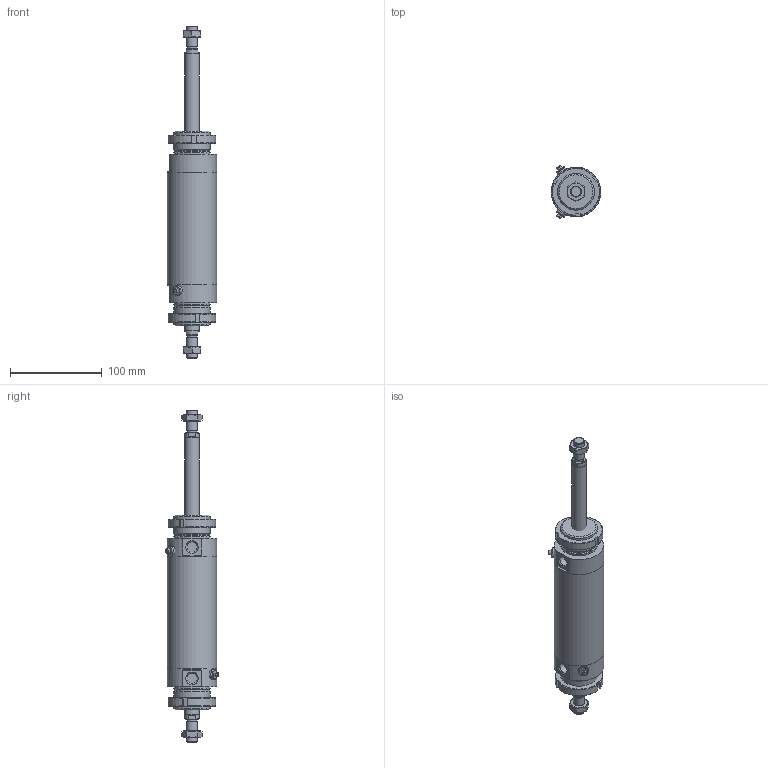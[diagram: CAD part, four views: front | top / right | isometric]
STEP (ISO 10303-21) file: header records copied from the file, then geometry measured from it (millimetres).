
FILE_DESCRIPTION(/* description */ (''),/* implementation_level */ '2;1');
FILE_NAME(/* name */ 'I:\Area Tecnica\Documenti\A-Manieri\_Inventor\12X\12X#S_###_####_#_#\12XDS_050_0080_#_#.stp',/* time_stamp */ '2015-05-13T08:20:25+02:00',/* author */ ('maniean1'),/* organization */ ('Pneumax S.p.A.'),/* preprocessor_version */ 'ST-DEVELOPER v15.2',/* originating_system */ 'Autodesk Inventor 2014',/* authorisation */ '');
FILE_SCHEMA (('AUTOMOTIVE_DESIGN { 1 0 10303 214 3 1 1 }'));
Length unit declared in the file: millimetre
Products named in the file (6): C1250_619-0080; 12X50_606; SP12X50_0080; 12X_50_11; G12X_050_05; 12XDS_050_0080_#_#
Bounding box: 54 x 57.75 x 362 mm (x, y, z)
Volume: 337359.9 mm3; surface area: 103540.1 mm2
Topology: 8 solids, 8 shells, 151 faces, 345 edges, 222 vertices
Faces by surface type: plane 78, cylinder 37, cone 34, torus 2
Full cylindrical faces by diameter (mm): 5 x2, 10.2 x2, 11 x2, 11.4 x2, 12 x4, 14 x2, 15.6 x2, 16 x2, 38.2 x2, 40 x6, 50 x2, 54 x3
Entity records: 2556 total; most frequent: CARTESIAN_POINT 505, DIRECTION 428, ORIENTED_EDGE 342, AXIS2_PLACEMENT_3D 182, EDGE_CURVE 171, EDGE_LOOP 144, VERTEX_POINT 129, ADVANCED_FACE 94
